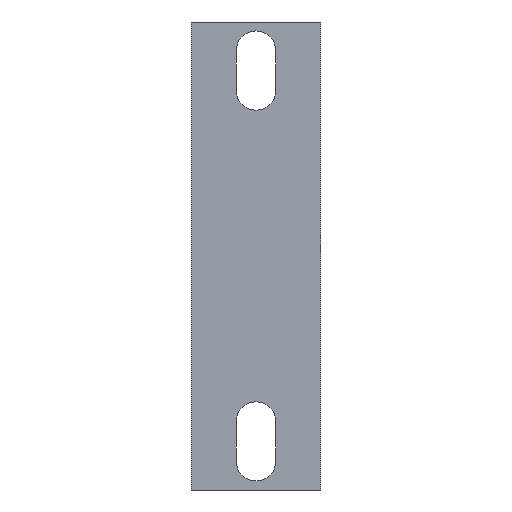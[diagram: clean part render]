
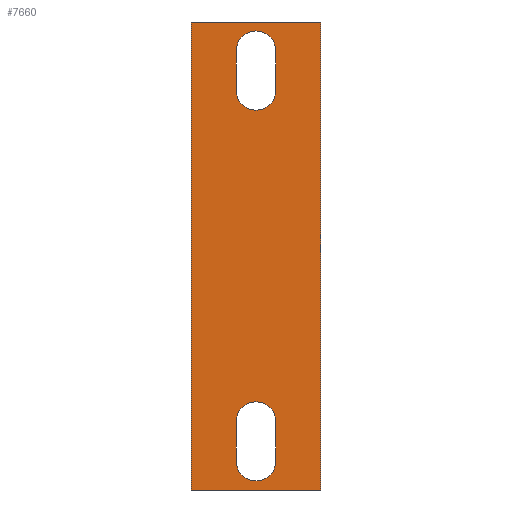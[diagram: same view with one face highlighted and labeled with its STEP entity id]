
A CAD part, front view. The second image highlights one B-rep face of the part: STEP entity #7660.
In plain terms, the highlighted planar face has unit normal (0, -1, 0).
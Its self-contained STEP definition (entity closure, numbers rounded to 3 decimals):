
#530=CARTESIAN_POINT('',(-5.5,-36.5,46.));
#540=VERTEX_POINT('VERTEX5019',#530);
#570=CARTESIAN_POINT('',(-5.5,-36.5,55.5));
#580=DIRECTION('',(0.,0.,1.));
#590=VECTOR('',#580,1.);
#600=LINE('',#570,#590);
#610=CARTESIAN_POINT('',(-5.5,-36.5,57.));
#620=VERTEX_POINT('VERTEX5018',#610);
#630=EDGE_CURVE('EDGE7682',#540,#620,#600,.T.);
#930=CARTESIAN_POINT('',(5.5,-36.5,46.));
#940=VERTEX_POINT('VERTEX5021',#930);
#970=CARTESIAN_POINT('',(0.,-36.5,46.));
#980=DIRECTION('',(0.,1.,0.));
#990=DIRECTION('',(1.,0.,0.));
#1000=AXIS2_PLACEMENT_3D('',#970,#980,#990);
#1010=CIRCLE('',#1000,5.5);
#1020=EDGE_CURVE('EDGE7685',#940,#540,#1010,.T.);
#1260=CARTESIAN_POINT('',(5.5,-36.5,57.));
#1270=VERTEX_POINT('VERTEX5023',#1260);
#1300=CARTESIAN_POINT('',(5.5,-36.5,61.));
#1310=DIRECTION('',(0.,0.,-1.));
#1320=VECTOR('',#1310,1.);
#1330=LINE('',#1300,#1320);
#1340=EDGE_CURVE('EDGE7688',#1270,#940,#1330,.T.);
#1520=CARTESIAN_POINT('',(0.,-36.5,57.));
#1530=DIRECTION('',(0.,1.,0.));
#1540=DIRECTION('',(-1.,0.,0.));
#1550=AXIS2_PLACEMENT_3D('',#1520,#1530,#1540);
#1560=CIRCLE('',#1550,5.5);
#1570=EDGE_CURVE('EDGE7691',#620,#1270,#1560,.T.);
#2140=CARTESIAN_POINT('',(18.,-36.5,-65.));
#2150=VERTEX_POINT('',#2140);
#2180=CARTESIAN_POINT('',(18.,-36.5,0.));
#2190=DIRECTION('',(0.,0.,1.));
#2200=VECTOR('',#2190,1.);
#2210=LINE('',#2180,#2200);
#2220=CARTESIAN_POINT('',(18.,-36.5,65.));
#2230=VERTEX_POINT('',#2220);
#2240=EDGE_CURVE('',#2150,#2230,#2210,.T.);
#2540=CARTESIAN_POINT('',(5.5,-36.5,-57.));
#2550=VERTEX_POINT('VERTEX5038',#2540);
#2580=CARTESIAN_POINT('',(0.,-36.5,-57.));
#2590=DIRECTION('',(0.,1.,0.));
#2600=DIRECTION('',(1.,0.,0.));
#2610=AXIS2_PLACEMENT_3D('',#2580,#2590,#2600);
#2620=CIRCLE('',#2610,5.5);
#2630=CARTESIAN_POINT('',(-5.5,-36.5,-57.));
#2640=VERTEX_POINT('VERTEX5037',#2630);
#2650=EDGE_CURVE('EDGE7705',#2550,#2640,#2620,.T.);
#2910=CARTESIAN_POINT('',(-5.5,-36.5,4.));
#2920=DIRECTION('',(0.,0.,1.));
#2930=VECTOR('',#2920,1.);
#2940=LINE('',#2910,#2930);
#2950=CARTESIAN_POINT('',(-5.5,-36.5,-46.));
#2960=VERTEX_POINT('VERTEX5040',#2950);
#2970=EDGE_CURVE('EDGE7709',#2640,#2960,#2940,.T.);
#3220=CARTESIAN_POINT('',(0.,-36.5,-46.));
#3230=DIRECTION('',(0.,1.,0.));
#3240=DIRECTION('',(-1.,0.,0.));
#3250=AXIS2_PLACEMENT_3D('',#3220,#3230,#3240);
#3260=CIRCLE('',#3250,5.5);
#3270=CARTESIAN_POINT('',(5.5,-36.5,-46.));
#3280=VERTEX_POINT('VERTEX5042',#3270);
#3290=EDGE_CURVE('EDGE7712',#2960,#3280,#3260,.T.);
#3550=CARTESIAN_POINT('',(5.5,-36.5,9.5));
#3560=DIRECTION('',(0.,0.,-1.));
#3570=VECTOR('',#3560,1.);
#3580=LINE('',#3550,#3570);
#3590=EDGE_CURVE('EDGE7714',#3280,#2550,#3580,.T.);
#5330=CARTESIAN_POINT('',(-18.,-36.5,65.));
#5340=VERTEX_POINT('',#5330);
#5370=CARTESIAN_POINT('',(-18.,-36.5,0.));
#5380=DIRECTION('',(0.,0.,1.));
#5390=VECTOR('',#5380,1.);
#5400=LINE('',#5370,#5390);
#5410=CARTESIAN_POINT('',(-18.,-36.5,-65.));
#5420=VERTEX_POINT('',#5410);
#5430=EDGE_CURVE('',#5420,#5340,#5400,.T.);
#7220=CARTESIAN_POINT('',(0.,-36.5,65.));
#7230=DIRECTION('',(-1.,0.,0.));
#7240=VECTOR('',#7230,1.);
#7250=LINE('',#7220,#7240);
#7260=EDGE_CURVE('',#2230,#5340,#7250,.T.);
#7380=CARTESIAN_POINT('',(18.,-36.5,65.));
#7390=DIRECTION('',(0.,-1.,0.));
#7400=DIRECTION('',(1.,0.,0.));
#7410=AXIS2_PLACEMENT_3D('',#7380,#7390,#7400);
#7420=PLANE('',#7410);
#7430=ORIENTED_EDGE('',*,*,#7260,.T.);
#7440=ORIENTED_EDGE('',*,*,#2240,.T.);
#7450=CARTESIAN_POINT('',(0.,-36.5,-65.));
#7460=DIRECTION('',(1.,0.,0.));
#7470=VECTOR('',#7460,1.);
#7480=LINE('',#7450,#7470);
#7490=EDGE_CURVE('',#5420,#2150,#7480,.T.);
#7500=ORIENTED_EDGE('',*,*,#7490,.T.);
#7510=ORIENTED_EDGE('',*,*,#5430,.F.);
#7520=EDGE_LOOP('',(#7510,#7500,#7440,#7430));
#7530=FACE_OUTER_BOUND('',#7520,.T.);
#7540=ORIENTED_EDGE('',*,*,#3290,.T.);
#7550=ORIENTED_EDGE('',*,*,#2970,.T.);
#7560=ORIENTED_EDGE('',*,*,#2650,.T.);
#7570=ORIENTED_EDGE('',*,*,#3590,.T.);
#7580=EDGE_LOOP('',(#7570,#7560,#7550,#7540));
#7590=FACE_BOUND('',#7580,.T.);
#7600=ORIENTED_EDGE('',*,*,#630,.T.);
#7610=ORIENTED_EDGE('',*,*,#1020,.T.);
#7620=ORIENTED_EDGE('',*,*,#1340,.T.);
#7630=ORIENTED_EDGE('',*,*,#1570,.T.);
#7640=EDGE_LOOP('',(#7630,#7620,#7610,#7600));
#7650=FACE_BOUND('',#7640,.T.);
#7660=ADVANCED_FACE('',(#7530,#7590,#7650),#7420,.T.);
